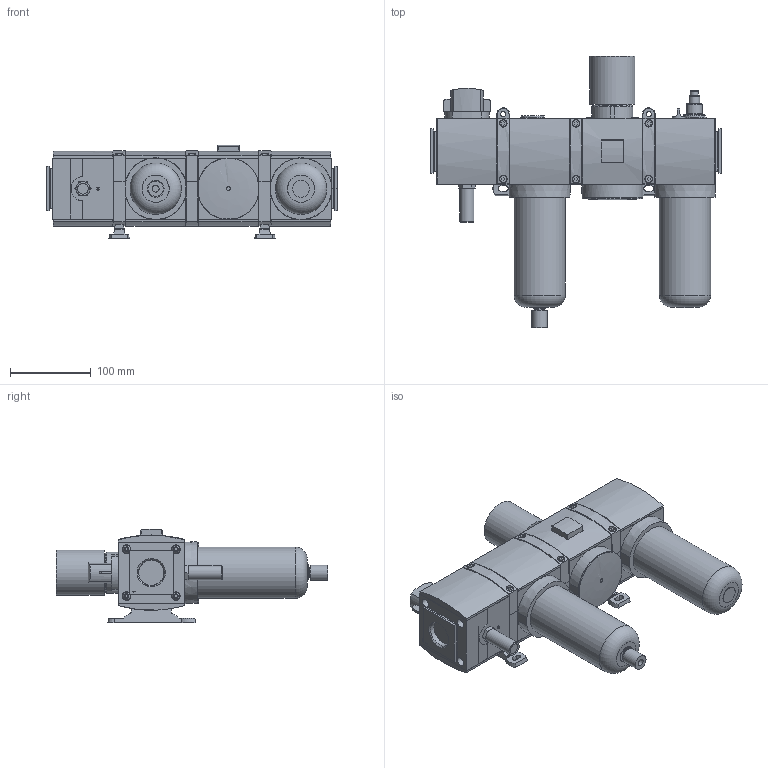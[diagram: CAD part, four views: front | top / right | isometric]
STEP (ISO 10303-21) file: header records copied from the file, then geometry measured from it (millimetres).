
FILE_DESCRIPTION( ( 'STEP AP214' ), '1' );
FILE_NAME( 'p:/temp/worker_230/temp/exporttempdir_5812_127_yupzV/format_0/07162020-200213_gen_20012.stp', '2020-02-07T19:16:15', ( '' ), ( '' ), ' ', 'PARTsolutions', ' ' );
FILE_SCHEMA( ( 'AUTOMOTIVE_DESIGN { 1 0 10303 214 1 1 1 1 }' ) );
Length unit declared in the file: millimetre
Products named in the file (19): 07162020-200213_gen_20012; _440562-004-006-F(L); _439489-001-0; _437742 KNOB-100_653; _653-M3MN; _440561-004-006-F(L); _G653ASLA0B00A00_LS; _439498-012-F(L); _439851-002; _507439-006-P; _653-440512-002; _G653ASLA0A00A00_LS; _439488-012-F(L); _439489-002-H; _653-438047-009; _503493-001; _510722-001-STANDARD_653; _503402-001; _500180-015-F(L)
Assembly tree (26 placements, depth 2):
  07162020-200213_gen_20012
    _440562-004-006-F(L)
    _439489-001-0  x7
    _437742 KNOB-100_653
    _653-M3MN
    _440561-004-006-F(L)
    _G653ASLA0B00A00_LS  x2
    _439498-012-F(L)
    _439851-002
    _507439-006-P  x2
    _653-440512-002
    _G653ASLA0A00A00_LS
    _439488-012-F(L)
    _439489-002-H
    _653-438047-009
    _503493-001
    _510722-001-STANDARD_653
    _503402-001
    _500180-015-F(L)
Bounding box: 360 x 335.95 x 115.36 mm (x, y, z)
Volume: 3834087.4 mm3; surface area: 514992.7 mm2
Topology: 26 solids, 27 shells, 1367 faces, 3327 edges, 2135 vertices
Faces by surface type: plane 956, cylinder 263, cone 105, torus 37, sphere 5, bspline 1
Full cylindrical faces by diameter (mm): 1.7 x2, 2.8 x2, 3 x2, 5.85 x4, 6.3 x4, 6.5 x2, 8.5 x6, 8.6 x1, 9.652 x1, 10 x5, 10.4 x1, 10.8 x4, 12 x4, 12.309 x1, 12.985 x1, 13 x2, 15.1 x1, 15.875 x1, 16.105 x1, 17.3 x1, 19 x1, 19.4 x1, 21.6 x1, 22.7 x1, 27 x1, 29.5 x1, 30 x2, 33.5 x2, 43 x1, 51 x1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
Entity records: 45223 total; most frequent: CARTESIAN_POINT 6868, DIRECTION 5903, ORIENTED_EDGE 5546, EDGE_CURVE 2773, AXIS2_PLACEMENT_3D 1979, LINE 1945, VECTOR 1945, VERTEX_POINT 1867
